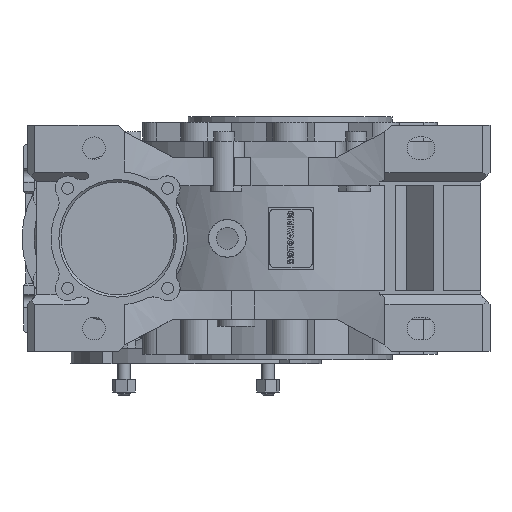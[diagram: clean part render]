
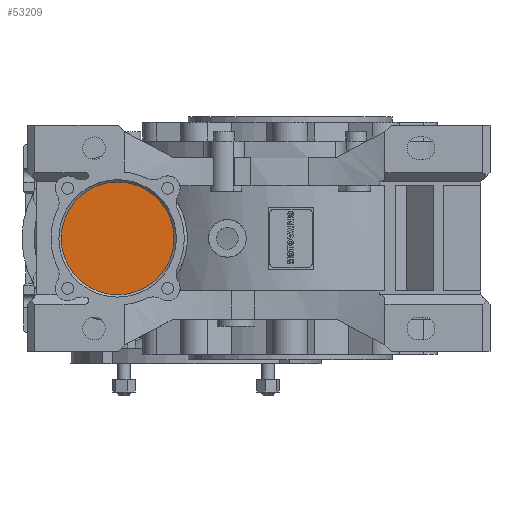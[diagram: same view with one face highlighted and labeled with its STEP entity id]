
A CAD part, left-side view. The second image highlights one B-rep face of the part: STEP entity #53209.
In plain terms, the highlighted planar face has unit normal (-1, 0, 0) as drawn and (1, 0, 0) by its records, which use the part's own axes.
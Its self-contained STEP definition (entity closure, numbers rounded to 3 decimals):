
#663=PLANE('',#56071);
#2633=CIRCLE('',#56072,36.);
#6683=ORIENTED_EDGE('',*,*,#16833,.T.);
#16833=EDGE_CURVE('',#22063,#22063,#2633,.T.);
#22063=VERTEX_POINT('',#74792);
#32049=EDGE_LOOP('',(#6683));
#34721=FACE_BOUND('',#32049,.T.);
#53209=ADVANCED_FACE('',(#34721),#663,.T.);
#56071=AXIS2_PLACEMENT_3D('',#74790,#62071,#62072);
#56072=AXIS2_PLACEMENT_3D('',#74791,#62073,#62074);
#62071=DIRECTION('',(1.,0.,0.));
#62072=DIRECTION('',(0.,0.,-1.));
#62073=DIRECTION('',(1.,0.,0.));
#62074=DIRECTION('',(0.,0.,-1.));
#74790=CARTESIAN_POINT('',(126.,110.,0.));
#74791=CARTESIAN_POINT('',(126.,110.,0.));
#74792=CARTESIAN_POINT('',(126.,110.,-36.));
